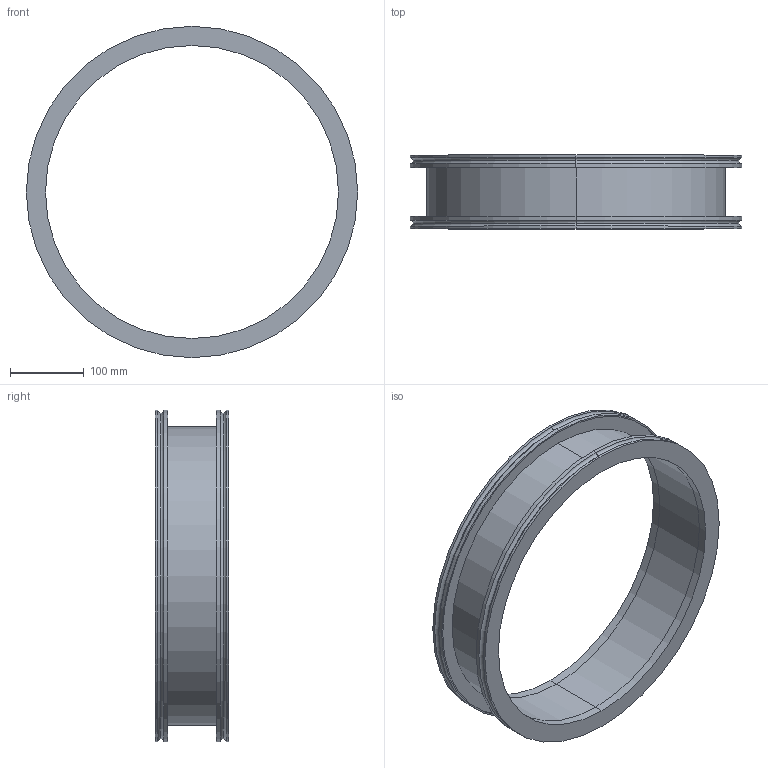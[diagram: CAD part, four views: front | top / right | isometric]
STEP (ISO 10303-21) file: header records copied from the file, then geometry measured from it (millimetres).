
FILE_DESCRIPTION (( 'STEP AP214' ), '1' );
FILE_NAME ('W4ZS400.STEP', '2020-09-23T06:29:00', ( '' ), ( '' ), 'SwSTEP 2.0', 'SolidWorks 2020', '' );
FILE_SCHEMA (( 'AUTOMOTIVE_DESIGN' ));
Length unit declared in the file: millimetre
Products named in the file (1): W4ZS400
Bounding box: 450 x 100 x 450 mm (x, y, z)
Volume: 1333339.7 mm3; surface area: 444440.3 mm2
Topology: 3 solids, 3 shells, 42 faces, 84 edges, 52 vertices
Faces by surface type: cylinder 24, plane 10, torus 8
Entity records: 1176 total; most frequent: DIRECTION 230, CARTESIAN_POINT 179, ORIENTED_EDGE 168, AXIS2_PLACEMENT_3D 103, EDGE_CURVE 84, CIRCLE 60, EDGE_LOOP 52, VERTEX_POINT 52
